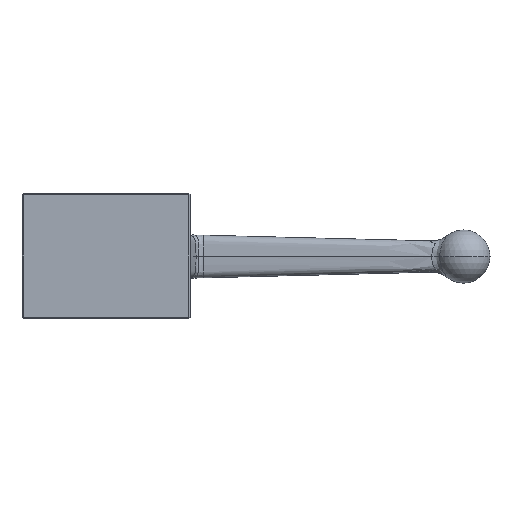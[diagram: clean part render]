
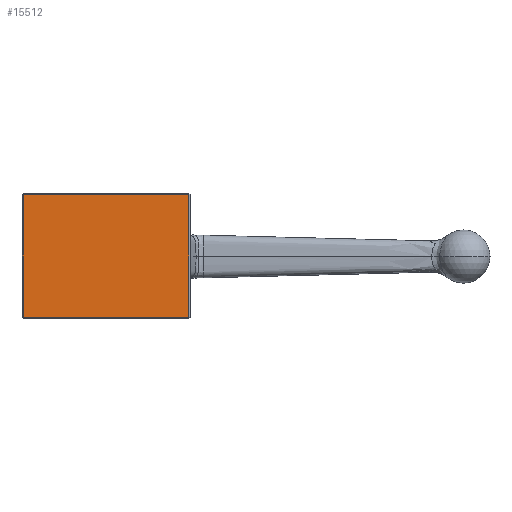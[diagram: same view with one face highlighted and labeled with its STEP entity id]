
A CAD part, left-side view. The second image highlights one B-rep face of the part: STEP entity #15512.
In plain terms, the highlighted planar face has unit normal (-1, 0, 0).
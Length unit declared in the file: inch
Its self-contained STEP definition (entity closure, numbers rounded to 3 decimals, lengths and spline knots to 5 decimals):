
#1658 = VECTOR ( 'NONE', #4576, 39.37008 ) ;
#2883 = CARTESIAN_POINT ( 'NONE',  ( -0.26694, -0.03331, 1.2276 ) ) ;
#4576 = DIRECTION ( 'NONE',  ( 0., -1., 0. ) ) ;
#11736 = ORIENTED_EDGE ( 'NONE', *, *, #40228, .T. ) ;
#14053 = VERTEX_POINT ( 'NONE', #18276 ) ;
#14845 = VERTEX_POINT ( 'NONE', #2883 ) ;
#15512 = ADVANCED_FACE ( 'NONE', ( #50078 ), #44967, .F. ) ;
#17538 = DIRECTION ( 'NONE',  ( 0., 1., 0. ) ) ;
#18234 = VECTOR ( 'NONE', #52811, 39.37008 ) ;
#18276 = CARTESIAN_POINT ( 'NONE',  ( -0.26694, 2.92669, 3.4226 ) ) ;
#19334 = CARTESIAN_POINT ( 'NONE',  ( -0.26694, 2.92669, 1.2276 ) ) ;
#19679 = VERTEX_POINT ( 'NONE', #19334 ) ;
#22685 = LINE ( 'NONE', #46200, #1658 ) ;
#22753 = EDGE_CURVE ( 'NONE', #51271, #14053, #58260, .T. ) ;
#23110 = EDGE_CURVE ( 'NONE', #14845, #51271, #24066, .T. ) ;
#24066 = LINE ( 'NONE', #42156, #41387 ) ;
#26694 = LINE ( 'NONE', #39352, #58024 ) ;
#27706 = AXIS2_PLACEMENT_3D ( 'NONE', #49480, #59467, #17538 ) ;
#29174 = DIRECTION ( 'NONE',  ( 0., 0., 1. ) ) ;
#30612 = DIRECTION ( 'NONE',  ( 0., 0., -1. ) ) ;
#32551 = CARTESIAN_POINT ( 'NONE',  ( -0.26694, -0.03331, 3.4226 ) ) ;
#34358 = ORIENTED_EDGE ( 'NONE', *, *, #43161, .T. ) ;
#39237 = CARTESIAN_POINT ( 'NONE',  ( -0.26694, -0.05331, 3.4226 ) ) ;
#39352 = CARTESIAN_POINT ( 'NONE',  ( -0.26694, 2.92669, 3.4426 ) ) ;
#40179 = ORIENTED_EDGE ( 'NONE', *, *, #22753, .T. ) ;
#40228 = EDGE_CURVE ( 'NONE', #19679, #14845, #22685, .T. ) ;
#41387 = VECTOR ( 'NONE', #29174, 39.37008 ) ;
#42156 = CARTESIAN_POINT ( 'NONE',  ( -0.26694, -0.03331, 3.4426 ) ) ;
#43161 = EDGE_CURVE ( 'NONE', #14053, #19679, #26694, .T. ) ;
#44967 = PLANE ( 'NONE',  #27706 ) ;
#46200 = CARTESIAN_POINT ( 'NONE',  ( -0.26694, -0.05331, 1.2276 ) ) ;
#49480 = CARTESIAN_POINT ( 'NONE',  ( -0.26694, -0.05331, 3.4426 ) ) ;
#50078 = FACE_OUTER_BOUND ( 'NONE', #53493, .T. ) ;
#51271 = VERTEX_POINT ( 'NONE', #32551 ) ;
#52811 = DIRECTION ( 'NONE',  ( 0., 1., 0. ) ) ;
#53493 = EDGE_LOOP ( 'NONE', ( #57959, #40179, #34358, #11736 ) ) ;
#57959 = ORIENTED_EDGE ( 'NONE', *, *, #23110, .T. ) ;
#58024 = VECTOR ( 'NONE', #30612, 39.37008 ) ;
#58260 = LINE ( 'NONE', #39237, #18234 ) ;
#59467 = DIRECTION ( 'NONE',  ( 1., 0., 0. ) ) ;
